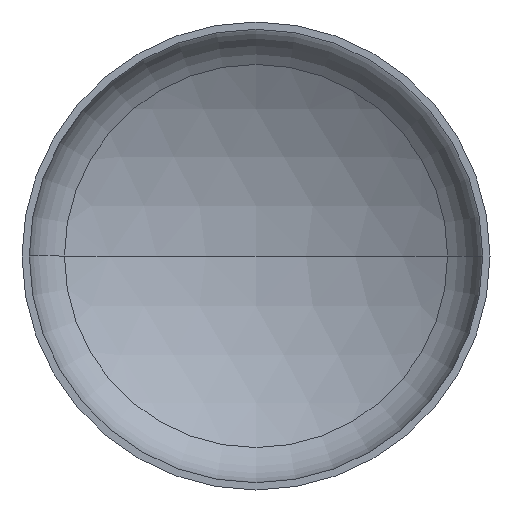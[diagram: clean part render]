
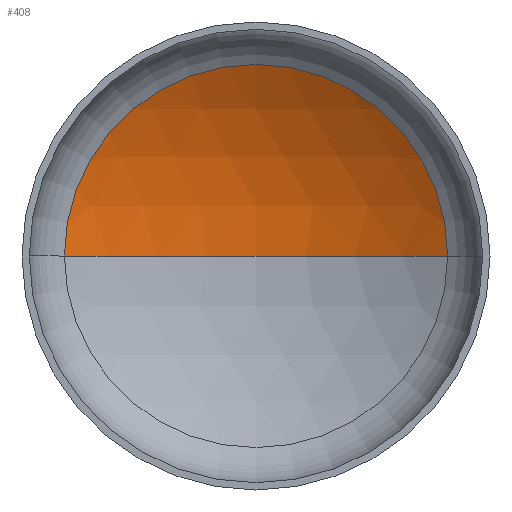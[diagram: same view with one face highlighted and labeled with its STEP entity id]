
A CAD part, front view. The second image highlights one B-rep face of the part: STEP entity #408.
In plain terms, the highlighted spherical face has radius 4400 mm.
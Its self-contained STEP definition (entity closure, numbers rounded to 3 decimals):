
#5 = FACE_OUTER_BOUND ( 'NONE', #118, .T. ) ;
#22 = AXIS2_PLACEMENT_3D ( 'NONE', #131, #397, #133 ) ;
#31 = DIRECTION ( 'NONE',  ( 0., 0., -1. ) ) ;
#32 = AXIS2_PLACEMENT_3D ( 'NONE', #147, #150, #159 ) ;
#38 = AXIS2_PLACEMENT_3D ( 'NONE', #198, #199, #190 ) ;
#47 = VERTEX_POINT ( 'NONE', #265 ) ;
#67 = ORIENTED_EDGE ( 'NONE', *, *, #186, .F. ) ;
#73 = ORIENTED_EDGE ( 'NONE', *, *, #179, .T. ) ;
#83 = CARTESIAN_POINT ( 'NONE',  ( 0., -2954.384, 0. ) ) ;
#104 = VERTEX_POINT ( 'NONE', #225 ) ;
#118 = EDGE_LOOP ( 'NONE', ( #67, #73, #182 ) ) ;
#131 = CARTESIAN_POINT ( 'NONE',  ( 0., -2954.384, 0. ) ) ;
#133 = DIRECTION ( 'NONE',  ( 1., 0., 0. ) ) ;
#147 = CARTESIAN_POINT ( 'NONE',  ( 0., -2954.384, 0. ) ) ;
#150 = DIRECTION ( 'NONE',  ( 0., 0., -1. ) ) ;
#159 = DIRECTION ( 'NONE',  ( -1., 0., 0. ) ) ;
#165 = EDGE_CURVE ( 'NONE', #47, #104, #285, .T. ) ;
#179 = EDGE_CURVE ( 'NONE', #209, #47, #410, .T. ) ;
#182 = ORIENTED_EDGE ( 'NONE', *, *, #165, .T. ) ;
#185 = AXIS2_PLACEMENT_3D ( 'NONE', #83, #31, #280 ) ;
#186 = EDGE_CURVE ( 'NONE', #209, #104, #405, .T. ) ;
#190 = DIRECTION ( 'NONE',  ( 1., 0., 0. ) ) ;
#198 = CARTESIAN_POINT ( 'NONE',  ( 0., 826.007, 0. ) ) ;
#199 = DIRECTION ( 'NONE',  ( 0., -1., 0. ) ) ;
#209 = VERTEX_POINT ( 'NONE', #254 ) ;
#223 = SPHERICAL_SURFACE ( 'NONE', #185, 4400. ) ;
#225 = CARTESIAN_POINT ( 'NONE',  ( -2251.364, 826.007, 0. ) ) ;
#254 = CARTESIAN_POINT ( 'NONE',  ( 0., 1445.616, 0. ) ) ;
#265 = CARTESIAN_POINT ( 'NONE',  ( 2251.364, 826.007, 0. ) ) ;
#280 = DIRECTION ( 'NONE',  ( -1., 0., 0. ) ) ;
#285 = CIRCLE ( 'NONE', #38, 2251.364 ) ;
#397 = DIRECTION ( 'NONE',  ( 0., 0., 1. ) ) ;
#405 = CIRCLE ( 'NONE', #22, 4400. ) ;
#408 = ADVANCED_FACE ( 'NONE', ( #5 ), #223, .F. ) ;
#410 = CIRCLE ( 'NONE', #32, 4400. ) ;
